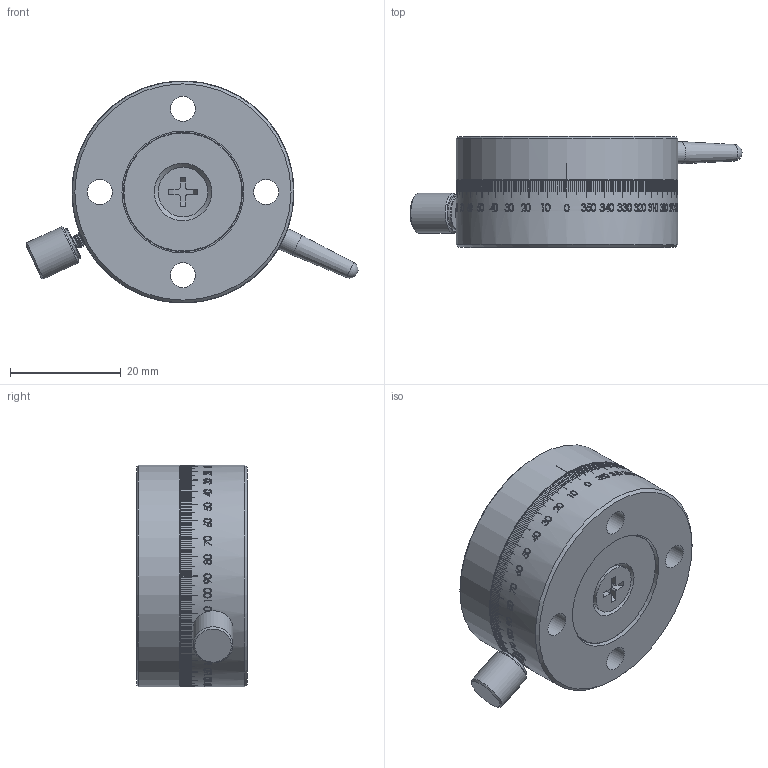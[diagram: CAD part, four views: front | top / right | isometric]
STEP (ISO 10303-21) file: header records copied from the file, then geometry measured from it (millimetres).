
FILE_DESCRIPTION (( 'STEP AP203' ), '1' );
FILE_NAME ('BER40.STEP', '2024-07-09T07:05:17', ( 'Windows User' ), ( 'P R C' ), 'SwSTEP 2.0', 'SolidWorks 2024', '' );
FILE_SCHEMA (( 'CONFIG_CONTROL_DESIGN' ));
Products named in the file (1): BER40
Bounding box: 59.89 x 20 x 40 mm (x, y, z)
Volume: 21766.7 mm3; surface area: 15134.2 mm2
Topology: 7 solids, 7 shells, 2030 faces, 6527 edges, 4679 vertices
Faces by surface type: plane 1751, cylinder 217, cone 55, bspline 6, sphere 1
Full cylindrical faces by diameter (mm): 1.6 x8, 2.05 x1, 2.5 x2, 2.6 x1, 3.3 x4, 4 x2, 4.2 x1, 4.5 x4, 5 x2, 5.5 x1, 6 x1, 7.2 x13, 8.94 x1, 11 x2, 15.4 x1, 16 x3, 21.5 x1, 22 x2, 22.4 x1, 22.5 x1, 37.4 x1, 37.6 x1, 38 x1, 39 x1, 40 x2
Entity records: 89902 total; most frequent: CARTESIAN_POINT 32699, ORIENTED_EDGE 12746, DIRECTION 10686, EDGE_CURVE 6373, VERTEX_POINT 4637, VECTOR 4438, LINE 4438, AXIS2_PLACEMENT_3D 3124
